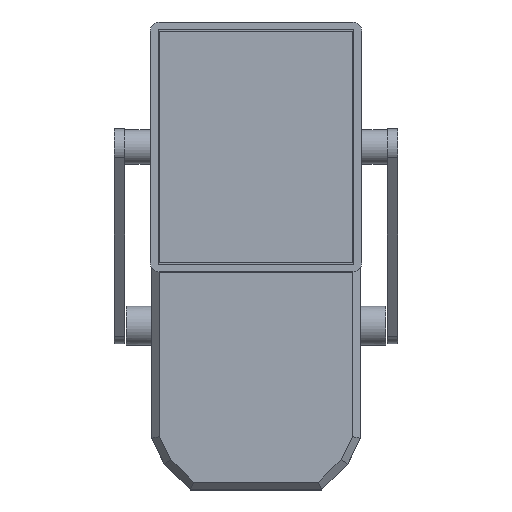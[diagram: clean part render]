
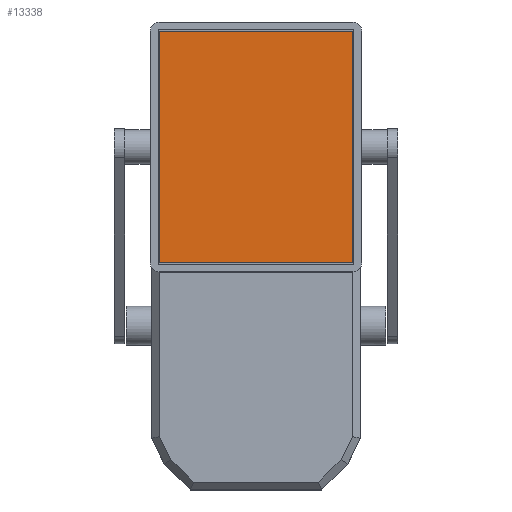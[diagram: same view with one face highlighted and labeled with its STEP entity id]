
A CAD part, top view. The second image highlights one B-rep face of the part: STEP entity #13338.
In plain terms, the highlighted planar face has unit normal (0, 0, 1).
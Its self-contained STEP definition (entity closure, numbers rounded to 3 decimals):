
#13024 = VERTEX_POINT('',#13025);
#13025 = CARTESIAN_POINT('',(-15.,131.2,18.2));
#13032 = PLANE('',#13033);
#13033 = AXIS2_PLACEMENT_3D('',#13034,#13035,#13036);
#13034 = CARTESIAN_POINT('',(-15.,131.2,16.8));
#13035 = DIRECTION('',(1.,0.,-0.));
#13036 = DIRECTION('',(0.,0.,1.));
#13044 = PLANE('',#13045);
#13045 = AXIS2_PLACEMENT_3D('',#13046,#13047,#13048);
#13046 = CARTESIAN_POINT('',(-15.,131.2,16.8));
#13047 = DIRECTION('',(-0.,1.,0.));
#13048 = DIRECTION('',(0.,0.,1.));
#13085 = VERTEX_POINT('',#13086);
#13086 = CARTESIAN_POINT('',(-15.,167.2,18.2));
#13100 = PLANE('',#13101);
#13101 = AXIS2_PLACEMENT_3D('',#13102,#13103,#13104);
#13102 = CARTESIAN_POINT('',(-15.,167.2,16.8));
#13103 = DIRECTION('',(-0.,1.,0.));
#13104 = DIRECTION('',(0.,0.,1.));
#13112 = EDGE_CURVE('',#13024,#13085,#13113,.T.);
#13113 = SURFACE_CURVE('',#13114,(#13118,#13125),.PCURVE_S1.);
#13114 = LINE('',#13115,#13116);
#13115 = CARTESIAN_POINT('',(-15.,131.2,18.2));
#13116 = VECTOR('',#13117,1.);
#13117 = DIRECTION('',(-0.,1.,0.));
#13118 = PCURVE('',#13032,#13119);
#13119 = DEFINITIONAL_REPRESENTATION('',(#13120),#13124);
#13120 = LINE('',#13121,#13122);
#13121 = CARTESIAN_POINT('',(1.4,0.));
#13122 = VECTOR('',#13123,1.);
#13123 = DIRECTION('',(0.,-1.));
#13124 = ( GEOMETRIC_REPRESENTATION_CONTEXT(2) 
PARAMETRIC_REPRESENTATION_CONTEXT() REPRESENTATION_CONTEXT('2D SPACE',''
  ) );
#13125 = PCURVE('',#13126,#13131);
#13126 = PLANE('',#13127);
#13127 = AXIS2_PLACEMENT_3D('',#13128,#13129,#13130);
#13128 = CARTESIAN_POINT('',(-15.,131.2,18.2));
#13129 = DIRECTION('',(0.,0.,1.));
#13130 = DIRECTION('',(1.,0.,-0.));
#13131 = DEFINITIONAL_REPRESENTATION('',(#13132),#13136);
#13132 = LINE('',#13133,#13134);
#13133 = CARTESIAN_POINT('',(0.,0.));
#13134 = VECTOR('',#13135,1.);
#13135 = DIRECTION('',(0.,1.));
#13136 = ( GEOMETRIC_REPRESENTATION_CONTEXT(2) 
PARAMETRIC_REPRESENTATION_CONTEXT() REPRESENTATION_CONTEXT('2D SPACE',''
  ) );
#13144 = VERTEX_POINT('',#13145);
#13145 = CARTESIAN_POINT('',(15.,131.2,18.2));
#13152 = PLANE('',#13153);
#13153 = AXIS2_PLACEMENT_3D('',#13154,#13155,#13156);
#13154 = CARTESIAN_POINT('',(15.,131.2,16.8));
#13155 = DIRECTION('',(1.,0.,-0.));
#13156 = DIRECTION('',(0.,0.,1.));
#13195 = VERTEX_POINT('',#13196);
#13196 = CARTESIAN_POINT('',(15.,167.2,18.2));
#13217 = EDGE_CURVE('',#13144,#13195,#13218,.T.);
#13218 = SURFACE_CURVE('',#13219,(#13223,#13230),.PCURVE_S1.);
#13219 = LINE('',#13220,#13221);
#13220 = CARTESIAN_POINT('',(15.,131.2,18.2));
#13221 = VECTOR('',#13222,1.);
#13222 = DIRECTION('',(-0.,1.,0.));
#13223 = PCURVE('',#13152,#13224);
#13224 = DEFINITIONAL_REPRESENTATION('',(#13225),#13229);
#13225 = LINE('',#13226,#13227);
#13226 = CARTESIAN_POINT('',(1.4,0.));
#13227 = VECTOR('',#13228,1.);
#13228 = DIRECTION('',(0.,-1.));
#13229 = ( GEOMETRIC_REPRESENTATION_CONTEXT(2) 
PARAMETRIC_REPRESENTATION_CONTEXT() REPRESENTATION_CONTEXT('2D SPACE',''
  ) );
#13230 = PCURVE('',#13126,#13231);
#13231 = DEFINITIONAL_REPRESENTATION('',(#13232),#13236);
#13232 = LINE('',#13233,#13234);
#13233 = CARTESIAN_POINT('',(30.,0.));
#13234 = VECTOR('',#13235,1.);
#13235 = DIRECTION('',(0.,1.));
#13236 = ( GEOMETRIC_REPRESENTATION_CONTEXT(2) 
PARAMETRIC_REPRESENTATION_CONTEXT() REPRESENTATION_CONTEXT('2D SPACE',''
  ) );
#13263 = EDGE_CURVE('',#13024,#13144,#13264,.T.);
#13264 = SURFACE_CURVE('',#13265,(#13269,#13276),.PCURVE_S1.);
#13265 = LINE('',#13266,#13267);
#13266 = CARTESIAN_POINT('',(-15.,131.2,18.2));
#13267 = VECTOR('',#13268,1.);
#13268 = DIRECTION('',(1.,0.,-0.));
#13269 = PCURVE('',#13044,#13270);
#13270 = DEFINITIONAL_REPRESENTATION('',(#13271),#13275);
#13271 = LINE('',#13272,#13273);
#13272 = CARTESIAN_POINT('',(1.4,0.));
#13273 = VECTOR('',#13274,1.);
#13274 = DIRECTION('',(0.,1.));
#13275 = ( GEOMETRIC_REPRESENTATION_CONTEXT(2) 
PARAMETRIC_REPRESENTATION_CONTEXT() REPRESENTATION_CONTEXT('2D SPACE',''
  ) );
#13276 = PCURVE('',#13126,#13277);
#13277 = DEFINITIONAL_REPRESENTATION('',(#13278),#13282);
#13278 = LINE('',#13279,#13280);
#13279 = CARTESIAN_POINT('',(0.,0.));
#13280 = VECTOR('',#13281,1.);
#13281 = DIRECTION('',(1.,0.));
#13282 = ( GEOMETRIC_REPRESENTATION_CONTEXT(2) 
PARAMETRIC_REPRESENTATION_CONTEXT() REPRESENTATION_CONTEXT('2D SPACE',''
  ) );
#13310 = EDGE_CURVE('',#13085,#13195,#13311,.T.);
#13311 = SURFACE_CURVE('',#13312,(#13316,#13323),.PCURVE_S1.);
#13312 = LINE('',#13313,#13314);
#13313 = CARTESIAN_POINT('',(-15.,167.2,18.2));
#13314 = VECTOR('',#13315,1.);
#13315 = DIRECTION('',(1.,0.,-0.));
#13316 = PCURVE('',#13100,#13317);
#13317 = DEFINITIONAL_REPRESENTATION('',(#13318),#13322);
#13318 = LINE('',#13319,#13320);
#13319 = CARTESIAN_POINT('',(1.4,0.));
#13320 = VECTOR('',#13321,1.);
#13321 = DIRECTION('',(0.,1.));
#13322 = ( GEOMETRIC_REPRESENTATION_CONTEXT(2) 
PARAMETRIC_REPRESENTATION_CONTEXT() REPRESENTATION_CONTEXT('2D SPACE',''
  ) );
#13323 = PCURVE('',#13126,#13324);
#13324 = DEFINITIONAL_REPRESENTATION('',(#13325),#13329);
#13325 = LINE('',#13326,#13327);
#13326 = CARTESIAN_POINT('',(0.,36.));
#13327 = VECTOR('',#13328,1.);
#13328 = DIRECTION('',(1.,0.));
#13329 = ( GEOMETRIC_REPRESENTATION_CONTEXT(2) 
PARAMETRIC_REPRESENTATION_CONTEXT() REPRESENTATION_CONTEXT('2D SPACE',''
  ) );
#13338 = ADVANCED_FACE('',(#13339),#13126,.T.);
#13339 = FACE_BOUND('',#13340,.T.);
#13340 = EDGE_LOOP('',(#13341,#13342,#13343,#13344));
#13341 = ORIENTED_EDGE('',*,*,#13112,.F.);
#13342 = ORIENTED_EDGE('',*,*,#13263,.T.);
#13343 = ORIENTED_EDGE('',*,*,#13217,.T.);
#13344 = ORIENTED_EDGE('',*,*,#13310,.F.);
